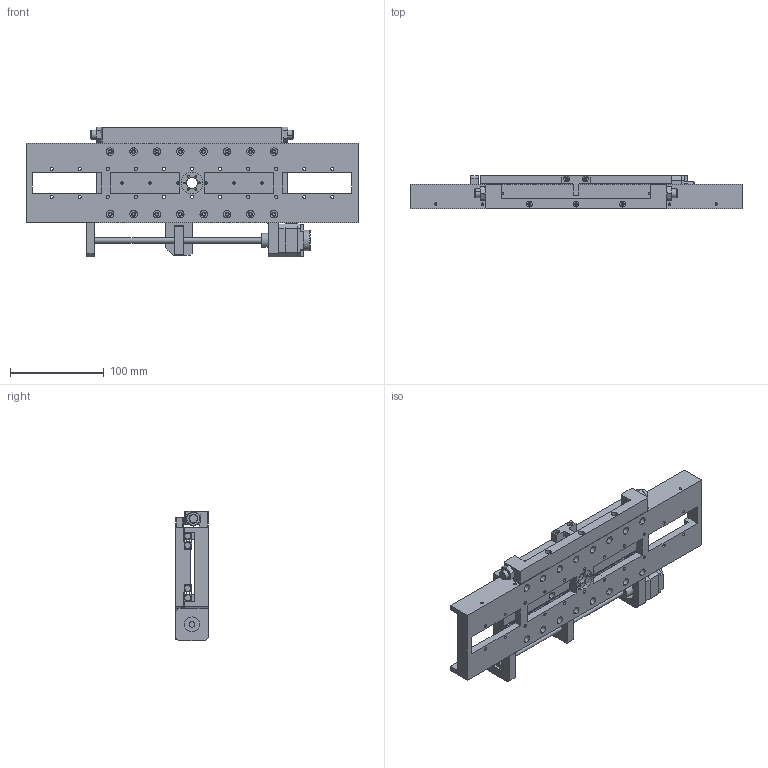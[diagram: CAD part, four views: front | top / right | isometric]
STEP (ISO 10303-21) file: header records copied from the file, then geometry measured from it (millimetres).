
FILE_DESCRIPTION (( 'STEP AP214' ), '1' );
FILE_NAME ('VSM17-X-150-LS.STEP', '2022-12-15T14:29:56', ( '' ), ( '' ), 'SwSTEP 2.0', 'SolidWorks 2022', '' );
FILE_SCHEMA (( 'AUTOMOTIVE_DESIGN' ));
Length unit declared in the file: millimetre
Products named in the file (11): Simplified Limit Switch; Simplified Leadscrew Nut; Simplified VSM17-X-150 Carriage; Simplified Drivetrain_VSM17-X-150; Simplified VSM17-X-150 Base V2; Simplified Roller Bearing 150; VSM17-X-150-LS; Simplified Motor_H; 3-8 UNF Nut; VSM17-X-150 Limit switch mounting block; Simplified VSM17-X LS Actuator
Assembly tree (15 placements, depth 2):
  VSM17-X-150-LS
    Simplified VSM17-X-150 Base V2
    Simplified Roller Bearing 150  x4
    Simplified VSM17-X-150 Carriage
    Simplified Motor_H
    Simplified Leadscrew Nut
    Simplified Drivetrain_VSM17-X-150
    VSM17-X-150 Limit switch mounting block
    Simplified Limit Switch  x2
    Simplified VSM17-X LS Actuator
    3-8 UNF Nut  x2
Bounding box: 355 x 36 x 138.95 mm (x, y, z)
Volume: 672719.5 mm3; surface area: 221230 mm2
Topology: 15 solids, 15 shells, 1092 faces, 2740 edges, 1739 vertices
Faces by surface type: cylinder 542, plane 366, cone 164, torus 20
Entity records: 26065 total; most frequent: DIRECTION 4388, CARTESIAN_POINT 4258, ORIENTED_EDGE 3856, EDGE_CURVE 1928, AXIS2_PLACEMENT_3D 1697, VERTEX_POINT 1261, EDGE_LOOP 1089, LINE 994
